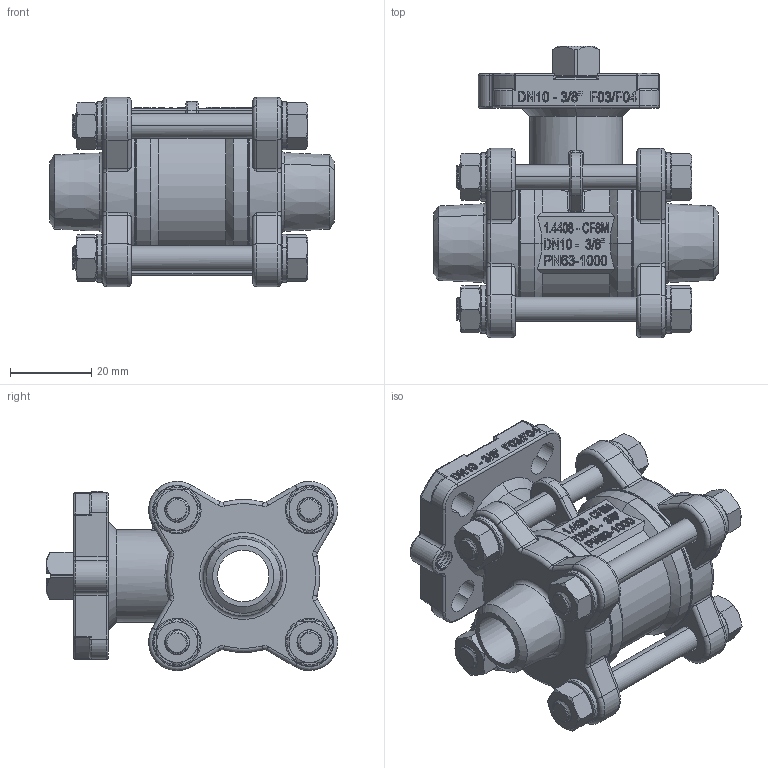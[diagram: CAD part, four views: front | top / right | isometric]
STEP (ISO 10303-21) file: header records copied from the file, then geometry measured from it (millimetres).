
FILE_DESCRIPTION (( 'STEP AP203' ), '1' );
FILE_NAME ('JV-35B (直孔對焊)-UNI-1.STEP', '2010-03-30T01:08:28', ( 'Colling' ), ( 'Collings' ), 'SwSTEP 2.0', 'SolidWorks 2005179', '' );
FILE_SCHEMA (( 'CONFIG_CONTROL_DESIGN' ));
Length unit declared in the file: millimetre
Products named in the file (1): JV-35B (直孔對焊)-UNI-1
Bounding box: 70 x 71.71 x 46.53 mm (x, y, z)
Surface area: 30462 mm2 (no closed solid volume)
Topology: 0 solids, 33 shells, 1394 faces, 4353 edges, 2938 vertices
Faces by surface type: plane 489, cylinder 356, bspline 304, torus 127, cone 108, sphere 10
Entity records: 94193 total; most frequent: CARTESIAN_POINT 59745, ORIENTED_EDGE 7382, DIRECTION 5803, EDGE_CURVE 4344, VERTEX_POINT 2938, VECTOR 2075, LINE 2075, AXIS2_PLACEMENT_3D 1864
